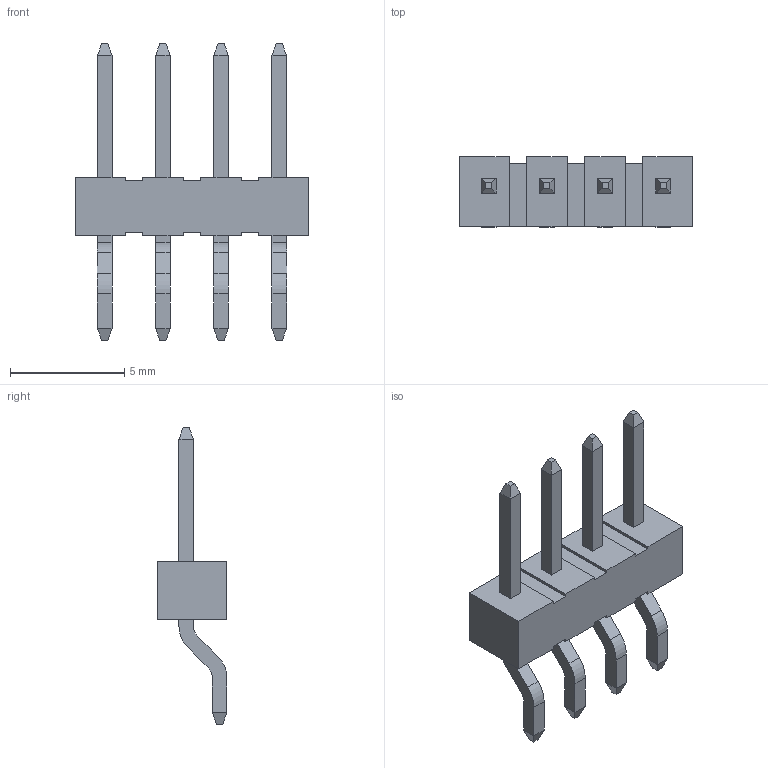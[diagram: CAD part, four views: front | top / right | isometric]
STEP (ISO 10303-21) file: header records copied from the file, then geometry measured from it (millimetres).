
FILE_DESCRIPTION(/* description */ ('STEP AP214'),/* implementation_level */ '2;1');
FILE_NAME(/* name */ 'TSM-104-01-TM-SH',/* time_stamp */ '2026-04-25T11:14:53+02:00',/* author */ ('License CC BY-ND 4.0'),/* organization */ ('CADENAS'),/* preprocessor_version */ 'ST-DEVELOPER v20',/* originating_system */ 'PARTsolutions',/* authorisation */ ' ');
FILE_SCHEMA (('AUTOMOTIVE_DESIGN {1 0 10303 214 3 1 1}'));
Length unit declared in the file: inch
Products named in the file (4): TSM-104-01-TM-SH; TSM-104-01-SH_body; T-1S6-08-TM(-01-4-SH); T-1S6-08-TM(-01-4-SH)2
Assembly tree (3 placements, depth 2):
  TSM-104-01-TM-SH
    TSM-104-01-SH_body
    T-1S6-08-TM(-01-4-SH)
    T-1S6-08-TM(-01-4-SH)2
Bounding box: 10.16 x 3.05 x 12.95 mm (x, y, z)
Volume: 93.3 mm3; surface area: 312.1 mm2
Topology: 3 solids, 3 shells, 146 faces, 388 edges, 248 vertices
Faces by surface type: plane 130, cylinder 16
Entity records: 4548 total; most frequent: CARTESIAN_POINT 786, ORIENTED_EDGE 776, DIRECTION 720, EDGE_CURVE 388, LINE 356, VECTOR 356, VERTEX_POINT 248, AXIS2_PLACEMENT_3D 182
